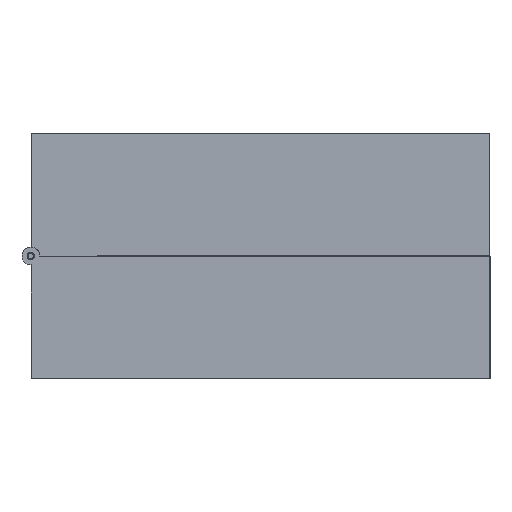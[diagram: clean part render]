
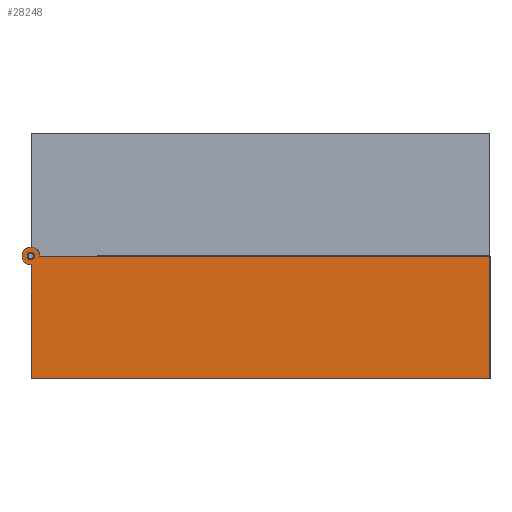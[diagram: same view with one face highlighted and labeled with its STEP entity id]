
A CAD part, left-side view. The second image highlights one B-rep face of the part: STEP entity #28248.
In plain terms, the highlighted planar face has unit normal (-1, 0, 0).
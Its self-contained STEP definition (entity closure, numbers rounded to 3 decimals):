
#1127=CIRCLE('',#29285,3.);
#1136=CIRCLE('',#29298,1.25);
#1139=CIRCLE('',#29304,2.9);
#1570=FACE_BOUND('',#5228,.T.);
#3595=FACE_OUTER_BOUND('',#5227,.T.);
#5227=EDGE_LOOP('',(#24032,#24033,#24034,#24035,#24036,#24037,#24038));
#5228=EDGE_LOOP('',(#24039));
#7255=LINE('',#53699,#9929);
#7264=LINE('',#53718,#9938);
#7273=LINE('',#53742,#9947);
#7457=LINE('',#54210,#10131);
#7458=LINE('',#54212,#10132);
#9929=VECTOR('',#32534,10.);
#9938=VECTOR('',#32545,10.);
#9947=VECTOR('',#32568,10.);
#10131=VECTOR('',#32970,10.);
#10132=VECTOR('',#32973,10.);
#12913=VERTEX_POINT('',#53696);
#12914=VERTEX_POINT('',#53698);
#12922=VERTEX_POINT('',#53715);
#12923=VERTEX_POINT('',#53717);
#12926=VERTEX_POINT('',#53724);
#12931=VERTEX_POINT('',#53741);
#12938=VERTEX_POINT('',#53759);
#13106=VERTEX_POINT('',#54208);
#16627=EDGE_CURVE('',#12914,#12913,#7255,.T.);
#16636=EDGE_CURVE('',#12923,#12922,#7264,.F.);
#16640=EDGE_CURVE('',#12913,#12926,#1127,.T.);
#16649=EDGE_CURVE('',#12926,#12931,#7273,.T.);
#16659=EDGE_CURVE('',#12938,#12938,#1136,.T.);
#16662=EDGE_CURVE('',#12931,#12923,#1139,.T.);
#16881=EDGE_CURVE('',#13106,#12922,#7457,.T.);
#16882=EDGE_CURVE('',#12914,#13106,#7458,.T.);
#24032=ORIENTED_EDGE('',*,*,#16662,.T.);
#24033=ORIENTED_EDGE('',*,*,#16636,.T.);
#24034=ORIENTED_EDGE('',*,*,#16881,.F.);
#24035=ORIENTED_EDGE('',*,*,#16882,.F.);
#24036=ORIENTED_EDGE('',*,*,#16627,.T.);
#24037=ORIENTED_EDGE('',*,*,#16640,.T.);
#24038=ORIENTED_EDGE('',*,*,#16649,.T.);
#24039=ORIENTED_EDGE('',*,*,#16659,.T.);
#26792=PLANE('',#29401);
#28248=ADVANCED_FACE('',(#3595,#1570),#26792,.T.);
#29285=AXIS2_PLACEMENT_3D('',#53726,#32551,#32552);
#29298=AXIS2_PLACEMENT_3D('',#53761,#32587,#32588);
#29304=AXIS2_PLACEMENT_3D('',#53767,#32599,#32600);
#29401=AXIS2_PLACEMENT_3D('',#54213,#32974,#32975);
#32534=DIRECTION('',(0.,1.,0.));
#32545=DIRECTION('',(0.,0.,1.));
#32551=DIRECTION('center_axis',(1.,0.,0.));
#32552=DIRECTION('ref_axis',(0.,1.,0.));
#32568=DIRECTION('',(0.,1.,0.));
#32587=DIRECTION('center_axis',(1.,0.,0.));
#32588=DIRECTION('ref_axis',(0.,1.,0.));
#32599=DIRECTION('center_axis',(-1.,0.,0.));
#32600=DIRECTION('ref_axis',(0.,-1.,0.));
#32970=DIRECTION('',(0.,1.,0.));
#32973=DIRECTION('',(0.,0.,-1.));
#32974=DIRECTION('center_axis',(-1.,0.,0.));
#32975=DIRECTION('ref_axis',(0.,1.,0.));
#53696=CARTESIAN_POINT('',(-147.5,72.,-4.));
#53698=CARTESIAN_POINT('',(-147.5,-75.,-4.));
#53699=CARTESIAN_POINT('',(-147.5,-37.5,-4.));
#53715=CARTESIAN_POINT('',(-147.5,74.8,-44.));
#53717=CARTESIAN_POINT('',(-147.5,74.8,-6.893));
#53718=CARTESIAN_POINT('',(-147.5,74.8,0.));
#53724=CARTESIAN_POINT('',(-147.5,72.002,-4.1));
#53726=CARTESIAN_POINT('Origin',(-147.5,75.,-4.));
#53741=CARTESIAN_POINT('',(-147.5,72.102,-4.1));
#53742=CARTESIAN_POINT('',(-147.5,-75.,-4.1));
#53759=CARTESIAN_POINT('',(-147.5,73.75,-4.));
#53761=CARTESIAN_POINT('Origin',(-147.5,75.,-4.));
#53767=CARTESIAN_POINT('Origin',(-147.5,75.,-4.));
#54208=CARTESIAN_POINT('',(-147.5,-75.,-44.));
#54210=CARTESIAN_POINT('',(-147.5,-75.,-44.));
#54212=CARTESIAN_POINT('',(-147.5,-75.,0.));
#54213=CARTESIAN_POINT('Origin',(-147.5,-75.,0.));
